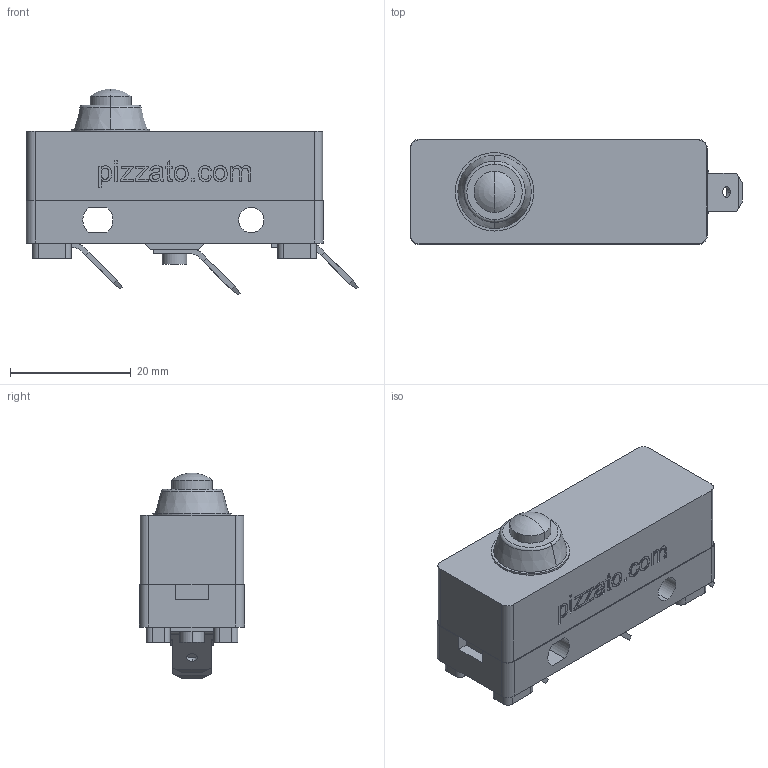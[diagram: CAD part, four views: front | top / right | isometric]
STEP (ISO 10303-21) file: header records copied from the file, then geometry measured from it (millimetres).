
FILE_DESCRIPTION (( 'STEP AP214' ), '1' );
FILE_NAME ('ZF_STEP_MF_05_.step', '2019-08-27T09:22:15', ( 'Pizzato Elettrica' ), ( 'Microsoft' ), 'SwSTEP 2.0', 'SolidWorks 2014', '' );
FILE_SCHEMA (( 'AUTOMOTIVE_DESIGN' ));
Length unit declared in the file: millimetre
Products named in the file (7): Pizzato_supporto+pulsante_MS_05; Pizzato_Pulsante MS05; Pizzato_Supporto MS05; MF Base 180+184; Pizzato_Faston_121; Pizzato_base 180+184 _MF; ZF_STEP_MF_05_
Assembly tree (8 placements, depth 3):
  ZF_STEP_MF_05_
    MF Base 180+184
      Pizzato_base 180+184 _MF
      Pizzato_Faston_121  x3
    Pizzato_supporto+pulsante_MS_05
      Pizzato_Supporto MS05
      Pizzato_Pulsante MS05
Bounding box: 54.97 x 17.4 x 34.1 mm (x, y, z)
Volume: 16004.5 mm3; surface area: 8205.3 mm2
Topology: 7 solids, 7 shells, 332 faces, 863 edges, 573 vertices
Faces by surface type: plane 191, bspline 69, cylinder 66, torus 4, cone 2
Entity records: 12380 total; most frequent: CARTESIAN_POINT 5428, ORIENTED_EDGE 1482, DIRECTION 1185, EDGE_CURVE 741, VERTEX_POINT 493, VECTOR 485, LINE 485, AXIS2_PLACEMENT_3D 350
